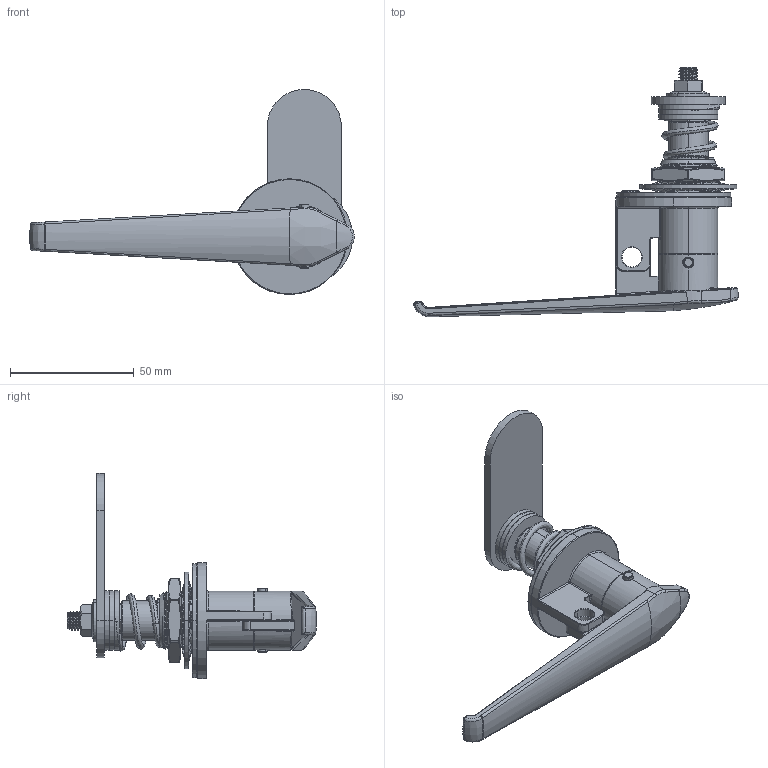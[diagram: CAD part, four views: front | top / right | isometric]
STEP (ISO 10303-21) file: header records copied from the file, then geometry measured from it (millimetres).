
FILE_DESCRIPTION (( 'STEP AP214' ), '1' );
FILE_NAME ('CUYUE B-1307.STEP', '2026-06-20T01:10:30', ( '' ), ( '' ), 'SwSTEP 2.0', 'SolidWorks 2020', '' );
FILE_SCHEMA (( 'AUTOMOTIVE_DESIGN' ));
Length unit declared in the file: millimetre
Products named in the file (15): CUYUE B-1307; A-2101蚾饜极-酘_MS323__sldasm.sldasm-Part-7; A-2101蚾饜极-酘_MS323__sldasm.sldasm-Part-14; A-2101蚾饜极-酘_MS323__sldasm.sldasm-Part-13; A-2101蚾饜极-酘_MS323__sldasm.sldasm-Part-3; A-2101蚾饜极-酘_MS323__sldasm.sldasm-Part-8; A-2101蚾饜极-酘_MS323__sldasm.sldasm-Part-6; A-2101蚾饜极-酘_MS323__sldasm.sldasm-Part-4; A-2101蚾饜极-酘_MS323__sldasm.sldasm-Part-9; A-2101蚾饜极-酘_MS323__sldasm.sldasm-Part-5; A-2101蚾饜极-酘_MS323__sldasm.sldasm-Part-1; A-2101蚾饜极-酘_MS323__sldasm.sldasm-Part-11; A-2101蚾饜极-酘_MS323__sldasm.sldasm-Part-10; A-2101蚾饜极-酘_MS323__sldasm.sldasm-Part-2; A-2101蚾饜极-酘_MS323__sldasm.sldasm-Part-12
Assembly tree (16 placements, depth 2):
  CUYUE B-1307
    A-2101蚾饜极-酘_MS323__sldasm.sldasm-Part-1
    A-2101蚾饜极-酘_MS323__sldasm.sldasm-Part-2
    A-2101蚾饜极-酘_MS323__sldasm.sldasm-Part-3
    A-2101蚾饜极-酘_MS323__sldasm.sldasm-Part-4
    A-2101蚾饜极-酘_MS323__sldasm.sldasm-Part-5
    A-2101蚾饜极-酘_MS323__sldasm.sldasm-Part-6
    A-2101蚾饜极-酘_MS323__sldasm.sldasm-Part-7
    A-2101蚾饜极-酘_MS323__sldasm.sldasm-Part-8
    A-2101蚾饜极-酘_MS323__sldasm.sldasm-Part-9
    A-2101蚾饜极-酘_MS323__sldasm.sldasm-Part-10  x3
    A-2101蚾饜极-酘_MS323__sldasm.sldasm-Part-11
    A-2101蚾饜极-酘_MS323__sldasm.sldasm-Part-12
    A-2101蚾饜极-酘_MS323__sldasm.sldasm-Part-13
    A-2101蚾饜极-酘_MS323__sldasm.sldasm-Part-14
Bounding box: 131.35 x 100.92 x 82.9 mm (x, y, z)
Volume: 51191.4 mm3; surface area: 42236.3 mm2
Topology: 16 solids, 16 shells, 795 faces, 1913 edges, 1135 vertices
Faces by surface type: cylinder 273, bspline 216, plane 146, torus 98, cone 53, sphere 9
Entity records: 37531 total; most frequent: CARTESIAN_POINT 20677, ORIENTED_EDGE 3742, DIRECTION 3006, EDGE_CURVE 1871, AXIS2_PLACEMENT_3D 1259, VERTEX_POINT 1117, EDGE_LOOP 820, FACE_OUTER_BOUND 783
